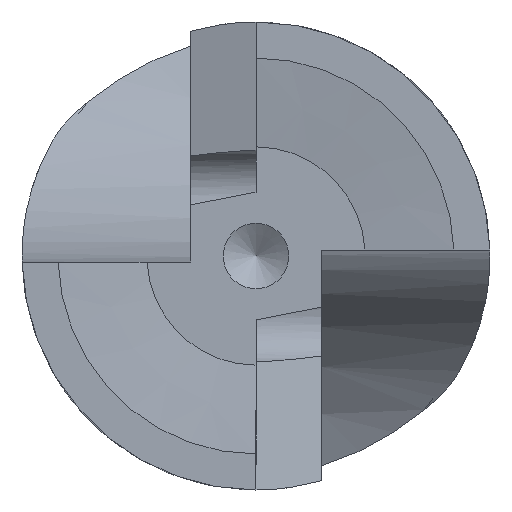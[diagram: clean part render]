
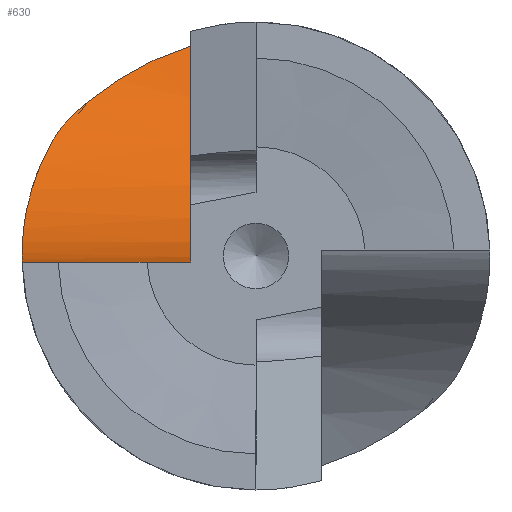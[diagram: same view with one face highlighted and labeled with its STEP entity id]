
A CAD part, front view. The second image highlights one B-rep face of the part: STEP entity #630.
In plain terms, the highlighted cylindrical face has radius 15 mm (diameter 30 mm), a partial arc.
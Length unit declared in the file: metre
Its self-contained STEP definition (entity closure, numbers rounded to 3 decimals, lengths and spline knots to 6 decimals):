
#31=CYLINDRICAL_SURFACE('',#705,0.015);
#53=B_SPLINE_CURVE_WITH_KNOTS('',3,(#1060,#1061,#1062,#1063,#1064,#1065,
#1066),.UNSPECIFIED.,.F.,.F.,(4,1,1,1,4),(0.,0.00335,0.006701,
0.010051,0.013402),.UNSPECIFIED.);
#59=B_SPLINE_CURVE_WITH_KNOTS('',3,(#1136,#1137,#1138,#1139,#1140),
 .UNSPECIFIED.,.F.,.F.,(4,1,4),(0.000001,0.002757,
0.005513),.UNSPECIFIED.);
#60=B_SPLINE_CURVE_WITH_KNOTS('',3,(#1142,#1143,#1144,#1145),
 .UNSPECIFIED.,.F.,.F.,(4,4),(0.000001,0.00272),
 .UNSPECIFIED.);
#65=LINE('',#955,#97);
#97=VECTOR('',#759,1.);
#220=ORIENTED_EDGE('',*,*,#346,.T.);
#221=ORIENTED_EDGE('',*,*,#300,.T.);
#222=ORIENTED_EDGE('',*,*,#332,.T.);
#223=ORIENTED_EDGE('',*,*,#359,.F.);
#224=ORIENTED_EDGE('',*,*,#360,.T.);
#300=EDGE_CURVE('',#384,#383,#65,.T.);
#332=EDGE_CURVE('',#383,#411,#452,.T.);
#346=EDGE_CURVE('',#419,#384,#53,.T.);
#359=EDGE_CURVE('',#426,#411,#59,.T.);
#360=EDGE_CURVE('',#426,#419,#60,.T.);
#383=VERTEX_POINT('',#954);
#384=VERTEX_POINT('',#956);
#411=VERTEX_POINT('',#1028);
#419=VERTEX_POINT('',#1067);
#426=VERTEX_POINT('',#1135);
#452=CIRCLE('',#683,0.015);
#497=EDGE_LOOP('',(#220,#221,#222,#223,#224));
#557=FACE_BOUND('',#497,.T.);
#630=ADVANCED_FACE('',(#557),#31,.F.);
#683=AXIS2_PLACEMENT_3D('',#1029,#805,#806);
#705=AXIS2_PLACEMENT_3D('',#1146,#855,#856);
#759=DIRECTION('',(1.,0.,0.));
#805=DIRECTION('',(1.,0.,0.));
#806=DIRECTION('',(0.,0.,-1.));
#855=DIRECTION('',(1.,0.,0.));
#856=DIRECTION('',(0.,0.,-1.));
#954=CARTESIAN_POINT('',(-0.003,0.015033,-0.000275));
#955=CARTESIAN_POINT('',(-0.015,0.015033,-0.000275));
#956=CARTESIAN_POINT('',(-0.010721,0.015033,-0.000275));
#1028=CARTESIAN_POINT('',(-0.003,0.029137,0.009618));
#1029=CARTESIAN_POINT('',(-0.003,0.015033,0.014725));
#1060=CARTESIAN_POINT('',(-0.009345,0.026672,0.005263));
#1061=CARTESIAN_POINT('',(-0.0098,0.026016,0.004455));
#1062=CARTESIAN_POINT('',(-0.010394,0.024486,0.00292));
#1063=CARTESIAN_POINT('',(-0.010702,0.021612,0.001102));
#1064=CARTESIAN_POINT('',(-0.010732,0.01841,-0.000019));
#1065=CARTESIAN_POINT('',(-0.010721,0.016165,-0.000275));
#1066=CARTESIAN_POINT('',(-0.010721,0.015033,-0.000275));
#1067=CARTESIAN_POINT('',(-0.009345,0.026672,0.005263));
#1135=CARTESIAN_POINT('',(-0.007719,0.02792,0.007048));
#1136=CARTESIAN_POINT('',(-0.007719,0.02792,0.007048));
#1137=CARTESIAN_POINT('',(-0.007029,0.028241,0.007587));
#1138=CARTESIAN_POINT('',(-0.005586,0.028757,0.008611));
#1139=CARTESIAN_POINT('',(-0.003897,0.029042,0.009356));
#1140=CARTESIAN_POINT('',(-0.003,0.029137,0.009618));
#1142=CARTESIAN_POINT('',(-0.007719,0.02792,0.007048));
#1143=CARTESIAN_POINT('',(-0.008401,0.027604,0.006517));
#1144=CARTESIAN_POINT('',(-0.008975,0.027207,0.00592));
#1145=CARTESIAN_POINT('',(-0.009345,0.026672,0.005263));
#1146=CARTESIAN_POINT('',(-0.015,0.015033,0.014725));
